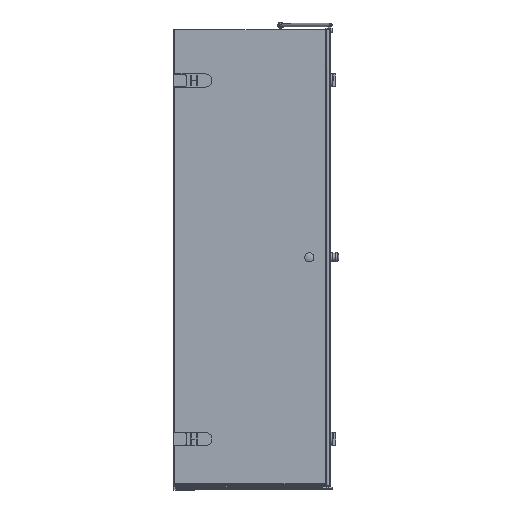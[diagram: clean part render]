
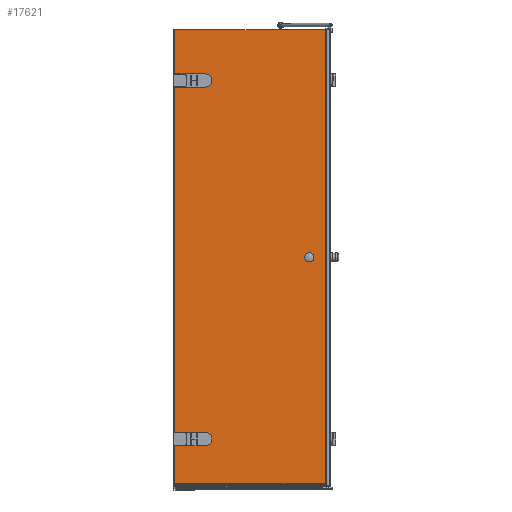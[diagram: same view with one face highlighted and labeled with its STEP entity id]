
A CAD part, front view. The second image highlights one B-rep face of the part: STEP entity #17621.
In plain terms, the highlighted planar face has unit normal (0, -1, 0).
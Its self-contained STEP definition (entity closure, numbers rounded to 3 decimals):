
#415=LINE($,#25524,#2231);
#418=LINE($,#25530,#2234);
#422=LINE($,#25540,#2238);
#465=LINE($,#25652,#2281);
#468=LINE($,#25658,#2284);
#472=LINE($,#25668,#2288);
#1428=LINE($,#28469,#3244);
#1461=LINE($,#28567,#3277);
#1505=LINE($,#28738,#3321);
#1510=LINE($,#28749,#3326);
#2231=VECTOR($,#20410,52.);
#2234=VECTOR($,#20415,23.);
#2238=VECTOR($,#20427,23.);
#2281=VECTOR($,#20534,52.);
#2284=VECTOR($,#20539,23.);
#2288=VECTOR($,#20551,23.);
#3244=VECTOR($,#22853,1875.4);
#3277=VECTOR($,#22948,624.8);
#3321=VECTOR($,#23108,1875.4);
#3326=VECTOR($,#23125,624.8);
#3864=FACE_BOUND($,#5882,.T.);
#3865=FACE_BOUND($,#5883,.T.);
#3866=FACE_BOUND($,#5884,.T.);
#5882=EDGE_LOOP($,(#13921,#13922,#13923,#13924));
#5883=EDGE_LOOP($,(#13925,#13926,#13927,#13928));
#5884=EDGE_LOOP($,(#13929,#13930,#13931,#13932));
#6293=CIRCLE($,#18232,26.);
#6305=CIRCLE($,#18269,26.);
#6988=VERTEX_POINT($,#25521);
#6989=VERTEX_POINT($,#25523);
#6991=VERTEX_POINT($,#25529);
#6993=VERTEX_POINT($,#25535);
#7029=VERTEX_POINT($,#25649);
#7030=VERTEX_POINT($,#25651);
#7032=VERTEX_POINT($,#25657);
#7034=VERTEX_POINT($,#25663);
#7822=VERTEX_POINT($,#28466);
#7823=VERTEX_POINT($,#28468);
#7851=VERTEX_POINT($,#28566);
#7896=VERTEX_POINT($,#28725);
#8584=EDGE_CURVE($,#6989,#6988,#415,.T.);
#8587=EDGE_CURVE($,#6991,#6989,#418,.T.);
#8590=EDGE_CURVE($,#6993,#6991,#6293,.T.);
#8593=EDGE_CURVE($,#6988,#6993,#422,.T.);
#8646=EDGE_CURVE($,#7030,#7029,#465,.T.);
#8649=EDGE_CURVE($,#7032,#7030,#468,.T.);
#8652=EDGE_CURVE($,#7034,#7032,#6305,.T.);
#8655=EDGE_CURVE($,#7029,#7034,#472,.T.);
#9878=EDGE_CURVE($,#7823,#7822,#1428,.T.);
#9927=EDGE_CURVE($,#7823,#7851,#1461,.T.);
#10003=EDGE_CURVE($,#7896,#7851,#1505,.T.);
#10008=EDGE_CURVE($,#7822,#7896,#1510,.T.);
#13921=ORIENTED_EDGE($,*,*,#8584,.T.);
#13922=ORIENTED_EDGE($,*,*,#8593,.T.);
#13923=ORIENTED_EDGE($,*,*,#8590,.T.);
#13924=ORIENTED_EDGE($,*,*,#8587,.T.);
#13925=ORIENTED_EDGE($,*,*,#8646,.T.);
#13926=ORIENTED_EDGE($,*,*,#8655,.T.);
#13927=ORIENTED_EDGE($,*,*,#8652,.T.);
#13928=ORIENTED_EDGE($,*,*,#8649,.T.);
#13929=ORIENTED_EDGE($,*,*,#9878,.T.);
#13930=ORIENTED_EDGE($,*,*,#10008,.T.);
#13931=ORIENTED_EDGE($,*,*,#10003,.T.);
#13932=ORIENTED_EDGE($,*,*,#9927,.F.);
#15663=PLANE($,#19060);
#17621=ADVANCED_FACE($,(#3864,#3865,#3866),#15663,.T.);
#18232=AXIS2_PLACEMENT_3D($,#25536,#20421,#20422);
#18269=AXIS2_PLACEMENT_3D($,#25664,#20545,#20546);
#19060=AXIS2_PLACEMENT_3D($,#28788,#23185,#23186);
#20410=DIRECTION($,(0.,0.,1.));
#20415=DIRECTION($,(-1.,0.,0.));
#20421=DIRECTION('center_axis',(0.,1.,0.));
#20422=DIRECTION('ref_axis',(0.,0.,
1.));
#20427=DIRECTION($,(1.,0.,0.));
#20534=DIRECTION($,(0.,0.,1.));
#20539=DIRECTION($,(-1.,0.,0.));
#20545=DIRECTION('center_axis',(0.,1.,0.));
#20546=DIRECTION('ref_axis',(0.,0.,
1.));
#20551=DIRECTION($,(1.,0.,0.));
#22853=DIRECTION($,(0.,0.,-1.));
#22948=DIRECTION($,(1.,0.,0.));
#23108=DIRECTION($,(0.,0.,1.));
#23125=DIRECTION($,(1.,0.,0.));
#23185=DIRECTION('center_axis',(0.,-1.,0.));
#23186=DIRECTION('ref_axis',(1.,0.,0.));
#25521=CARTESIAN_POINT('',(795.233,-44.044,-279.056));
#25523=CARTESIAN_POINT('',(795.233,-44.044,-331.056));
#25524=CARTESIAN_POINT($,(795.233,-44.044,-413.056));
#25529=CARTESIAN_POINT('',(818.233,-44.044,-331.056));
#25530=CARTESIAN_POINT($,(752.733,-44.044,-331.056));
#25535=CARTESIAN_POINT('',(818.233,-44.044,-279.056));
#25536=CARTESIAN_POINT('Origin',(818.233,-44.044,-305.056));
#25540=CARTESIAN_POINT($,(741.233,-44.044,-279.056));
#25649=CARTESIAN_POINT('',(795.233,-44.044,1200.944));
#25651=CARTESIAN_POINT('',(795.233,-44.044,1148.944));
#25652=CARTESIAN_POINT($,(795.233,-44.044,326.944));
#25657=CARTESIAN_POINT('',(818.233,-44.044,1148.944));
#25658=CARTESIAN_POINT($,(752.733,-44.044,1148.944));
#25663=CARTESIAN_POINT('',(818.233,-44.044,1200.944));
#25664=CARTESIAN_POINT('Origin',(818.233,-44.044,1174.944));
#25668=CARTESIAN_POINT($,(741.233,-44.044,1200.944));
#28466=CARTESIAN_POINT('',(691.933,-44.044,-490.456));
#28468=CARTESIAN_POINT('',(691.933,-44.044,1384.944));
#28469=CARTESIAN_POINT($,(691.933,-44.044,444.944));
#28566=CARTESIAN_POINT('',(1316.733,-44.044,1384.944));
#28567=CARTESIAN_POINT($,(687.233,-44.044,1384.944));
#28725=CARTESIAN_POINT('',(1316.733,-44.044,-490.456));
#28738=CARTESIAN_POINT($,(1316.733,-44.044,-495.056));
#28749=CARTESIAN_POINT($,(687.233,-44.044,-490.456));
#28788=CARTESIAN_POINT('Origin',(687.233,-44.044,-495.056));
